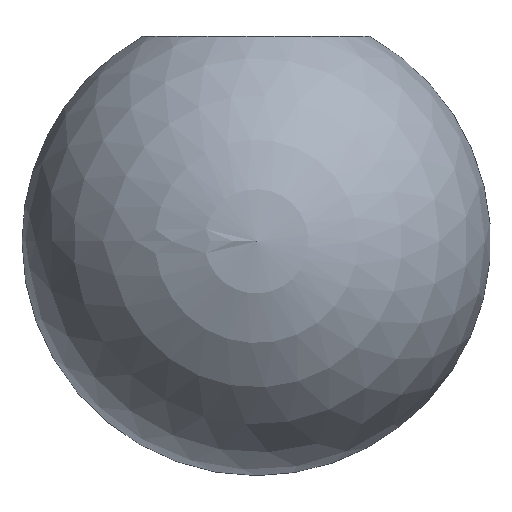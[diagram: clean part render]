
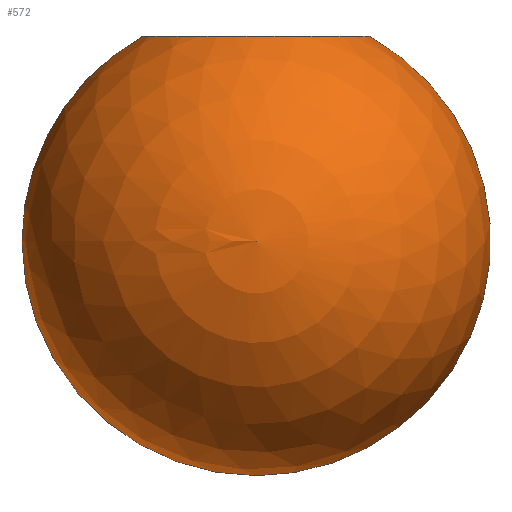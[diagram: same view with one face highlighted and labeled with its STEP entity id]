
A CAD part, left-side view. The second image highlights one B-rep face of the part: STEP entity #572.
In plain terms, the highlighted spherical face has radius 8 mm.
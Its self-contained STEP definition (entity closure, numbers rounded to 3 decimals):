
#10 = AXIS2_PLACEMENT_3D ( 'NONE', #247, #383, #190 ) ;
#39 = VERTEX_POINT ( 'NONE', #552 ) ;
#79 = CARTESIAN_POINT ( 'NONE',  ( 0., -3.873, 0. ) ) ;
#98 = CIRCLE ( 'NONE', #10, 3.873 ) ;
#110 = FACE_OUTER_BOUND ( 'NONE', #442, .T. ) ;
#111 = DIRECTION ( 'NONE',  ( -1., 0., 0. ) ) ;
#125 = DIRECTION ( 'NONE',  ( 0., -1., 0. ) ) ;
#127 = VERTEX_POINT ( 'NONE', #79 ) ;
#174 = DIRECTION ( 'NONE',  ( 0., 0., -1. ) ) ;
#190 = DIRECTION ( 'NONE',  ( 1., 0., 0. ) ) ;
#197 = ORIENTED_EDGE ( 'NONE', *, *, #525, .F. ) ;
#227 = CARTESIAN_POINT ( 'NONE',  ( 0., 0., -7. ) ) ;
#247 = CARTESIAN_POINT ( 'NONE',  ( 0., 0., 0. ) ) ;
#261 = AXIS2_PLACEMENT_3D ( 'NONE', #227, #267, #174 ) ;
#264 = EDGE_CURVE ( 'NONE', #39, #127, #553, .T. ) ;
#267 = DIRECTION ( 'NONE',  ( 1., 0., 0. ) ) ;
#277 = DIRECTION ( 'NONE',  ( 0., 1., 0. ) ) ;
#311 = AXIS2_PLACEMENT_3D ( 'NONE', #503, #333, #277 ) ;
#321 = EDGE_CURVE ( 'NONE', #463, #127, #98, .T. ) ;
#333 = DIRECTION ( 'NONE',  ( -1., 0., 0. ) ) ;
#367 = CARTESIAN_POINT ( 'NONE',  ( 0., 3.873, 0. ) ) ;
#383 = DIRECTION ( 'NONE',  ( 0., 0., 1. ) ) ;
#402 = AXIS2_PLACEMENT_3D ( 'NONE', #484, #111, #125 ) ;
#442 = EDGE_LOOP ( 'NONE', ( #197, #443, #474 ) ) ;
#443 = ORIENTED_EDGE ( 'NONE', *, *, #264, .T. ) ;
#451 = CIRCLE ( 'NONE', #261, 8. ) ;
#463 = VERTEX_POINT ( 'NONE', #367 ) ;
#474 = ORIENTED_EDGE ( 'NONE', *, *, #321, .F. ) ;
#484 = CARTESIAN_POINT ( 'NONE',  ( 0., 0., -7. ) ) ;
#503 = CARTESIAN_POINT ( 'NONE',  ( 0., 0., -7. ) ) ;
#511 = SPHERICAL_SURFACE ( 'NONE', #311, 8. ) ;
#525 = EDGE_CURVE ( 'NONE', #39, #463, #451, .T. ) ;
#552 = CARTESIAN_POINT ( 'NONE',  ( 0., 0., -15. ) ) ;
#553 = CIRCLE ( 'NONE', #402, 8. ) ;
#572 = ADVANCED_FACE ( 'NONE', ( #110 ), #511, .T. ) ;
